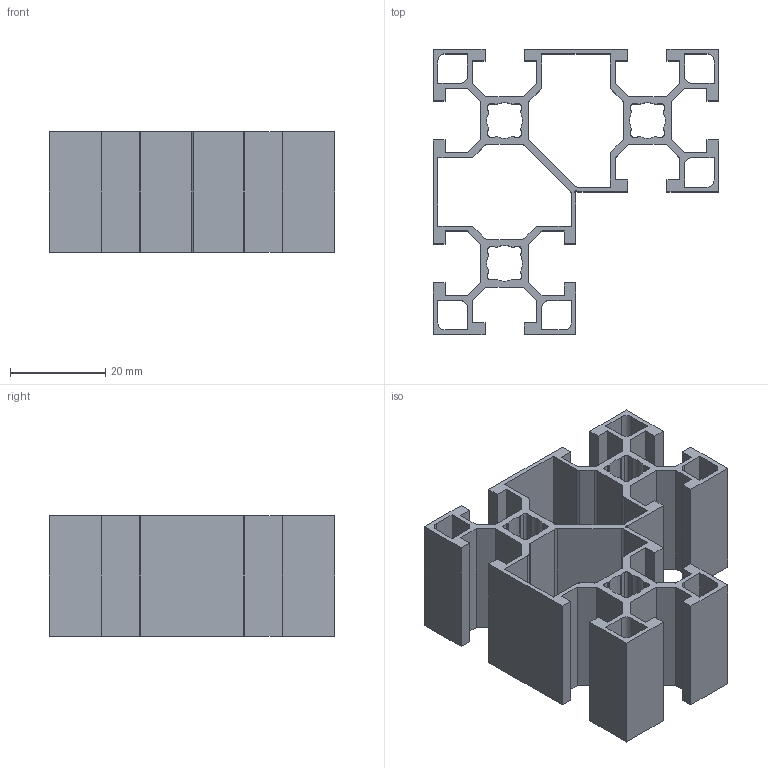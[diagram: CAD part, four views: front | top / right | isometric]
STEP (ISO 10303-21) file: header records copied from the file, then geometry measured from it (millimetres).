
FILE_DESCRIPTION((''),'2;1');
FILE_NAME('C:\Andys Backup Data\WEBSITE\DREAMWEAVER\MiniTec\Products\30 SERIES PROFILES\CAD\STEP\20.0982 60x60x30.stp','2016-08-10T10:19:53',('amoles'),(''),'Autodesk Inventor 2012','Autodesk Inventor 2012','');
FILE_SCHEMA(('AUTOMOTIVE_DESIGN { 1 0 10303 214 1 1 1 1 }'));
Length unit declared in the file: inch
Products named in the file (1): 20.0982 60x60x30
Bounding box: 60 x 60 x 25.4 mm (x, y, z)
Volume: 14599 mm3; surface area: 22276.1 mm2
Topology: 1 solids, 1 shells, 255 faces, 759 edges, 506 vertices
Faces by surface type: plane 178, cylinder 77
Entity records: 8595 total; most frequent: CARTESIAN_POINT 1521, ORIENTED_EDGE 1518, DIRECTION 1425, EDGE_CURVE 759, VECTOR 605, LINE 605, VERTEX_POINT 506, AXIS2_PLACEMENT_3D 410
